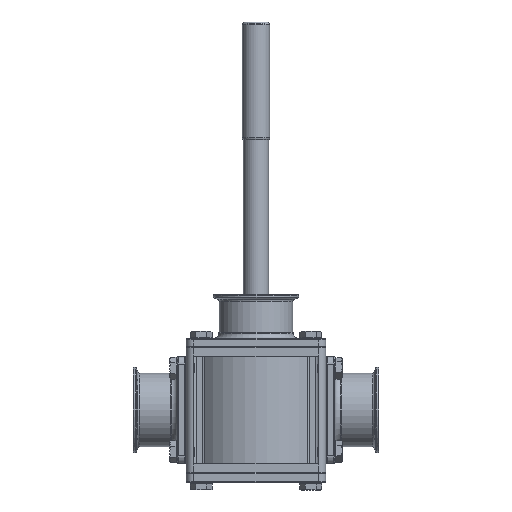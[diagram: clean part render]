
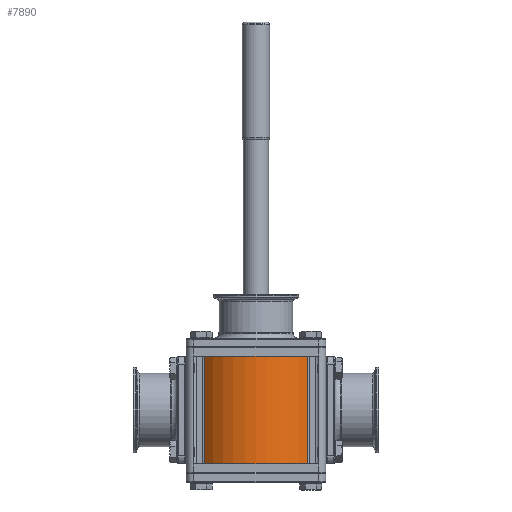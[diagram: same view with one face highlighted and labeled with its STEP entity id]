
A CAD part, front view. The second image highlights one B-rep face of the part: STEP entity #7890.
In plain terms, the highlighted cylindrical face has radius 73 mm (diameter 146 mm), a partial arc.
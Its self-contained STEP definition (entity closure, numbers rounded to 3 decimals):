
#720 = CARTESIAN_POINT ( 'NONE',  ( -54.123, -48.987, -57. ) ) ;
#1192 = DIRECTION ( 'NONE',  ( 1., 0., 0. ) ) ;
#2781 = VERTEX_POINT ( 'NONE', #36356 ) ;
#3514 = CIRCLE ( 'NONE', #37308, 73. ) ;
#3914 = LINE ( 'NONE', #25947, #32926 ) ;
#4056 = CARTESIAN_POINT ( 'NONE',  ( 54.123, -48.987, 57. ) ) ;
#4442 = CIRCLE ( 'NONE', #29974, 73. ) ;
#7285 = ORIENTED_EDGE ( 'NONE', *, *, #18297, .F. ) ;
#7890 = ADVANCED_FACE ( 'NONE', ( #12058 ), #19878, .T. ) ;
#12058 = FACE_OUTER_BOUND ( 'NONE', #32030, .T. ) ;
#12855 = CARTESIAN_POINT ( 'NONE',  ( -54.123, -48.987, -57. ) ) ;
#13293 = DIRECTION ( 'NONE',  ( 1., 0., 0. ) ) ;
#13536 = VECTOR ( 'NONE', #18116, 1000. ) ;
#13812 = VERTEX_POINT ( 'NONE', #4056 ) ;
#15909 = DIRECTION ( 'NONE',  ( 0., 0., -1. ) ) ;
#17218 = DIRECTION ( 'NONE',  ( 0., 0., 1. ) ) ;
#17654 = ORIENTED_EDGE ( 'NONE', *, *, #30151, .T. ) ;
#18116 = DIRECTION ( 'NONE',  ( 0., 0., 1. ) ) ;
#18297 = EDGE_CURVE ( 'NONE', #2781, #21761, #4442, .T. ) ;
#19878 = CYLINDRICAL_SURFACE ( 'NONE', #25571, 73. ) ;
#21180 = EDGE_CURVE ( 'NONE', #21761, #33144, #37967, .T. ) ;
#21761 = VERTEX_POINT ( 'NONE', #12855 ) ;
#25230 = CARTESIAN_POINT ( 'NONE',  ( 0., 0., 57. ) ) ;
#25571 = AXIS2_PLACEMENT_3D ( 'NONE', #33700, #28135, #36559 ) ;
#25947 = CARTESIAN_POINT ( 'NONE',  ( 54.123, -48.987, -57. ) ) ;
#28135 = DIRECTION ( 'NONE',  ( 0., 0., 1. ) ) ;
#28524 = ORIENTED_EDGE ( 'NONE', *, *, #21180, .F. ) ;
#29974 = AXIS2_PLACEMENT_3D ( 'NONE', #33535, #15909, #1192 ) ;
#30151 = EDGE_CURVE ( 'NONE', #13812, #33144, #3514, .T. ) ;
#32030 = EDGE_LOOP ( 'NONE', ( #17654, #28524, #7285, #33092 ) ) ;
#32051 = EDGE_CURVE ( 'NONE', #2781, #13812, #3914, .T. ) ;
#32926 = VECTOR ( 'NONE', #17218, 1000. ) ;
#33092 = ORIENTED_EDGE ( 'NONE', *, *, #32051, .T. ) ;
#33144 = VERTEX_POINT ( 'NONE', #37223 ) ;
#33535 = CARTESIAN_POINT ( 'NONE',  ( 0., 0., -57. ) ) ;
#33700 = CARTESIAN_POINT ( 'NONE',  ( 0., 0., -57. ) ) ;
#36356 = CARTESIAN_POINT ( 'NONE',  ( 54.123, -48.987, -57. ) ) ;
#36559 = DIRECTION ( 'NONE',  ( 1., 0., 0. ) ) ;
#36750 = DIRECTION ( 'NONE',  ( 0., 0., -1. ) ) ;
#37223 = CARTESIAN_POINT ( 'NONE',  ( -54.123, -48.987, 57. ) ) ;
#37308 = AXIS2_PLACEMENT_3D ( 'NONE', #25230, #36750, #13293 ) ;
#37967 = LINE ( 'NONE', #720, #13536 ) ;
